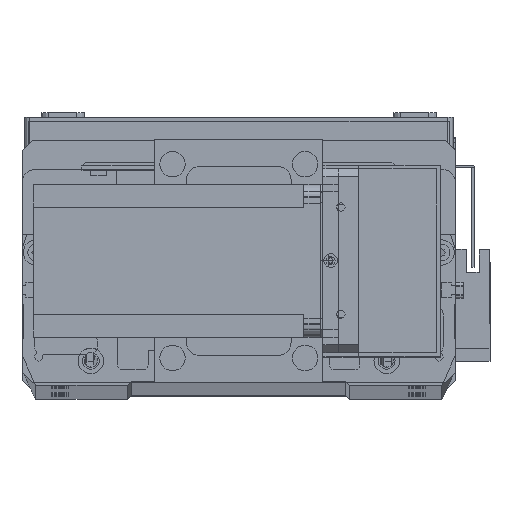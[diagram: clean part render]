
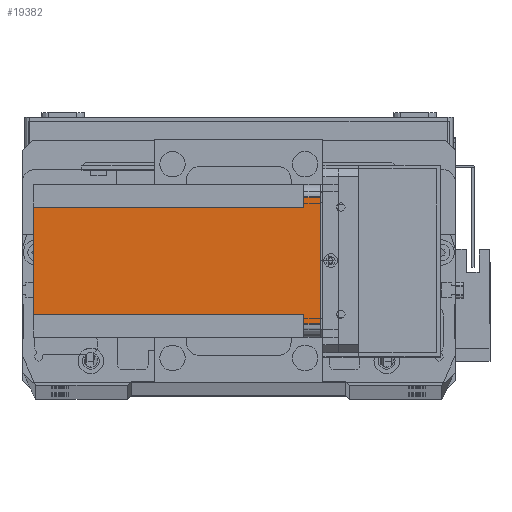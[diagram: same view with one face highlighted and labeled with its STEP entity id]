
A CAD part, top view. The second image highlights one B-rep face of the part: STEP entity #19382.
In plain terms, the highlighted planar face has unit normal (0, 0, 1) as drawn and (-1, 0, 0) by its records, which use the part's own axes.
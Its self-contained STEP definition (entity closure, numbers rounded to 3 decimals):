
#68 = ORIENTED_EDGE ( 'NONE', *, *, #8448, .F. ) ;
#456 = CARTESIAN_POINT ( 'NONE',  ( 0., 55., -6.5 ) ) ;
#792 = DIRECTION ( 'NONE',  ( 0., -1., 0. ) ) ;
#1174 = FACE_OUTER_BOUND ( 'NONE', #7293, .T. ) ;
#1532 = LINE ( 'NONE', #17685, #14841 ) ;
#1702 = CARTESIAN_POINT ( 'NONE',  ( 0., 55., 0. ) ) ;
#2765 = VECTOR ( 'NONE', #31377, 1000. ) ;
#2821 = ORIENTED_EDGE ( 'NONE', *, *, #15950, .T. ) ;
#4009 = LINE ( 'NONE', #26852, #17318 ) ;
#4201 = DIRECTION ( 'NONE',  ( 0., -1., 0. ) ) ;
#4774 = LINE ( 'NONE', #17146, #31398 ) ;
#4849 = LINE ( 'NONE', #5473, #32323 ) ;
#5181 = AXIS2_PLACEMENT_3D ( 'NONE', #11373, #16705, #792 ) ;
#5473 = CARTESIAN_POINT ( 'NONE',  ( 0., 55., -112.5 ) ) ;
#6023 = PLANE ( 'NONE',  #5181 ) ;
#6651 = DIRECTION ( 'NONE',  ( 0., -1., 0. ) ) ;
#7199 = ORIENTED_EDGE ( 'NONE', *, *, #23405, .F. ) ;
#7293 = EDGE_LOOP ( 'NONE', ( #68, #2821, #14003, #19164, #7199, #15019, #31101, #25999 ) ) ;
#7294 = VERTEX_POINT ( 'NONE', #12015 ) ;
#8184 = LINE ( 'NONE', #26007, #2765 ) ;
#8448 = EDGE_CURVE ( 'NONE', #7294, #10012, #34454, .T. ) ;
#9024 = CARTESIAN_POINT ( 'NONE',  ( 0., 0., -6.5 ) ) ;
#10012 = VERTEX_POINT ( 'NONE', #21497 ) ;
#10568 = LINE ( 'NONE', #33525, #17613 ) ;
#11373 = CARTESIAN_POINT ( 'NONE',  ( 0., 0., -112.5 ) ) ;
#11673 = EDGE_CURVE ( 'NONE', #15649, #15353, #10568, .T. ) ;
#11675 = DIRECTION ( 'NONE',  ( 0., 1., 0. ) ) ;
#12015 = CARTESIAN_POINT ( 'NONE',  ( 0., 5., -6.5 ) ) ;
#14003 = ORIENTED_EDGE ( 'NONE', *, *, #31062, .F. ) ;
#14841 = VECTOR ( 'NONE', #6651, 1000. ) ;
#15019 = ORIENTED_EDGE ( 'NONE', *, *, #21260, .F. ) ;
#15353 = VERTEX_POINT ( 'NONE', #29314 ) ;
#15512 = CARTESIAN_POINT ( 'NONE',  ( 0., 51., -6.5 ) ) ;
#15649 = VERTEX_POINT ( 'NONE', #28356 ) ;
#15950 = EDGE_CURVE ( 'NONE', #7294, #20116, #4009, .T. ) ;
#16153 = DIRECTION ( 'NONE',  ( 0., 0., 1. ) ) ;
#16705 = DIRECTION ( 'NONE',  ( -1., 0., 0. ) ) ;
#17146 = CARTESIAN_POINT ( 'NONE',  ( 0., 51., -112.5 ) ) ;
#17318 = VECTOR ( 'NONE', #16153, 1000. ) ;
#17597 = CARTESIAN_POINT ( 'NONE',  ( 0., 60., -6.5 ) ) ;
#17613 = VECTOR ( 'NONE', #4201, 1000. ) ;
#17685 = CARTESIAN_POINT ( 'NONE',  ( 0., 0., 0. ) ) ;
#18836 = VECTOR ( 'NONE', #30944, 1000. ) ;
#19164 = ORIENTED_EDGE ( 'NONE', *, *, #33288, .T. ) ;
#19382 = ADVANCED_FACE ( 'NONE', ( #1174 ), #6023, .T. ) ;
#19746 = VERTEX_POINT ( 'NONE', #15512 ) ;
#19829 = DIRECTION ( 'NONE',  ( 0., 0., 1. ) ) ;
#20116 = VERTEX_POINT ( 'NONE', #25245 ) ;
#20275 = VECTOR ( 'NONE', #11675, 1000. ) ;
#21260 = EDGE_CURVE ( 'NONE', #15649, #19746, #4774, .T. ) ;
#21497 = CARTESIAN_POINT ( 'NONE',  ( 0., 9., -6.5 ) ) ;
#23405 = EDGE_CURVE ( 'NONE', #19746, #24363, #25867, .T. ) ;
#24363 = VERTEX_POINT ( 'NONE', #456 ) ;
#25245 = CARTESIAN_POINT ( 'NONE',  ( 0., 5., 0. ) ) ;
#25699 = VERTEX_POINT ( 'NONE', #1702 ) ;
#25799 = EDGE_CURVE ( 'NONE', #10012, #15353, #8184, .T. ) ;
#25867 = LINE ( 'NONE', #17597, #18836 ) ;
#25999 = ORIENTED_EDGE ( 'NONE', *, *, #25799, .F. ) ;
#26007 = CARTESIAN_POINT ( 'NONE',  ( 0., 9., -112.5 ) ) ;
#26852 = CARTESIAN_POINT ( 'NONE',  ( 0., 5., -112.5 ) ) ;
#28356 = CARTESIAN_POINT ( 'NONE',  ( 0., 51., -112.5 ) ) ;
#29314 = CARTESIAN_POINT ( 'NONE',  ( 0., 9., -112.5 ) ) ;
#30944 = DIRECTION ( 'NONE',  ( 0., 1., 0. ) ) ;
#31062 = EDGE_CURVE ( 'NONE', #25699, #20116, #1532, .T. ) ;
#31101 = ORIENTED_EDGE ( 'NONE', *, *, #11673, .T. ) ;
#31377 = DIRECTION ( 'NONE',  ( 0., 0., -1. ) ) ;
#31398 = VECTOR ( 'NONE', #19829, 1000. ) ;
#32116 = DIRECTION ( 'NONE',  ( 0., 0., -1. ) ) ;
#32323 = VECTOR ( 'NONE', #32116, 1000. ) ;
#33288 = EDGE_CURVE ( 'NONE', #25699, #24363, #4849, .T. ) ;
#33525 = CARTESIAN_POINT ( 'NONE',  ( 0., 0., -112.5 ) ) ;
#34454 = LINE ( 'NONE', #9024, #20275 ) ;
